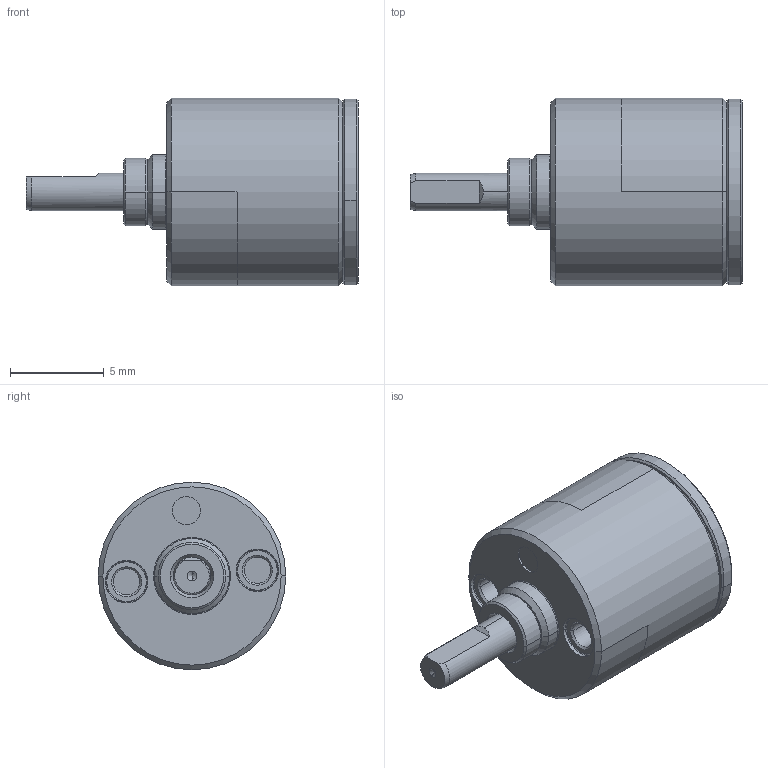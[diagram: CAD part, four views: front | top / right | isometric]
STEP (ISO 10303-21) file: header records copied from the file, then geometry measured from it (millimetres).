
FILE_DESCRIPTION((''),'2;1');
FILE_NAME('110308_GP10K_0_005NM_1ST_GL','2016-10-04T',('mmagvisi'),(''),'CREO PARAMETRIC BY PTC INC, 2016050','CREO PARAMETRIC BY PTC INC, 2016050','');
FILE_SCHEMA(('CONFIG_CONTROL_DESIGN'));
Length unit declared in the file: millimetre
Products named in the file (1): 110308_GP10K_0_005NM_1ST_GL
Bounding box: 17.7 x 10 x 10 mm (x, y, z)
Volume: 802.9 mm3; surface area: 593.9 mm2
Topology: 1 solids, 1 shells, 77 faces, 167 edges, 103 vertices
Faces by surface type: cone 35, cylinder 20, plane 16, torus 6
Entity records: 2738 total; most frequent: DIRECTION 416, CARTESIAN_POINT 369, ORIENTED_EDGE 330, AXIS2_PLACEMENT_3D 178, PRESENTATION_STYLE_ASSIGNMENT 166, STYLED_ITEM 166, CURVE_STYLE 165, EDGE_CURVE 165
